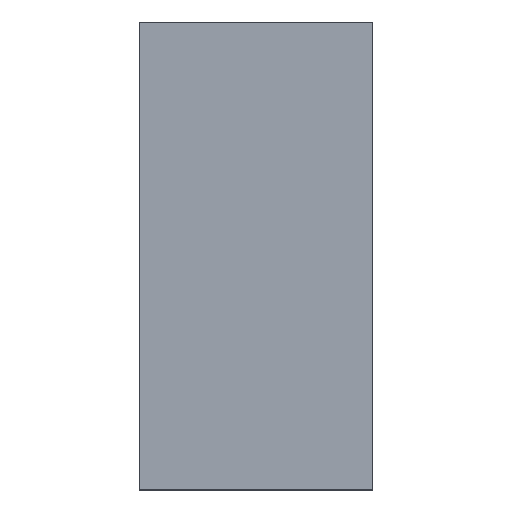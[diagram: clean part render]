
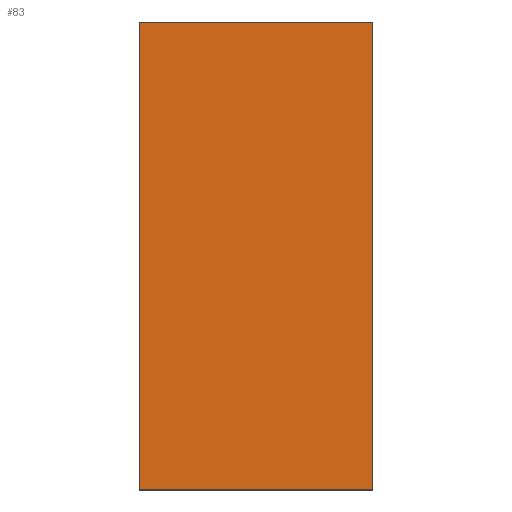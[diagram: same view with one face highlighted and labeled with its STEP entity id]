
A CAD part, top view. The second image highlights one B-rep face of the part: STEP entity #83.
In plain terms, the highlighted planar face has unit normal (0, 0, 1).
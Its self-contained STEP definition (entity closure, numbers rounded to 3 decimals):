
#83=ADVANCED_FACE('',(#106),#99,.F.);
#99=PLANE('',#309);
#106=FACE_OUTER_BOUND('',#118,.T.);
#118=EDGE_LOOP('',(#159,#160,#161,#162));
#159=ORIENTED_EDGE('',*,*,#244,.T.);
#160=ORIENTED_EDGE('',*,*,#245,.F.);
#161=ORIENTED_EDGE('',*,*,#246,.F.);
#162=ORIENTED_EDGE('',*,*,#242,.T.);
#215=VERTEX_POINT('',#441);
#216=VERTEX_POINT('',#443);
#217=VERTEX_POINT('',#447);
#218=VERTEX_POINT('',#449);
#242=EDGE_CURVE('',#216,#215,#271,.T.);
#244=EDGE_CURVE('',#215,#217,#273,.T.);
#245=EDGE_CURVE('',#218,#217,#274,.T.);
#246=EDGE_CURVE('',#216,#218,#275,.T.);
#271=LINE('',#442,#293);
#273=LINE('',#446,#295);
#274=LINE('',#448,#296);
#275=LINE('',#450,#297);
#293=VECTOR('',#358,1.);
#295=VECTOR('',#362,1.);
#296=VECTOR('',#363,1.);
#297=VECTOR('',#364,1.);
#309=AXIS2_PLACEMENT_3D('',#451,#365,#366);
#358=DIRECTION('',(0.,1.,0.));
#362=DIRECTION('',(-1.,0.,0.));
#363=DIRECTION('',(0.,1.,0.));
#364=DIRECTION('',(-1.,0.,0.));
#365=DIRECTION('',(0.,0.,-1.));
#366=DIRECTION('',(-1.,0.,0.));
#441=CARTESIAN_POINT('',(2.5,5.,6.));
#442=CARTESIAN_POINT('',(2.5,-5.,6.));
#443=CARTESIAN_POINT('',(2.5,-5.,6.));
#446=CARTESIAN_POINT('',(2.5,5.,6.));
#447=CARTESIAN_POINT('',(-2.5,5.,6.));
#448=CARTESIAN_POINT('',(-2.5,-5.,6.));
#449=CARTESIAN_POINT('',(-2.5,-5.,6.));
#450=CARTESIAN_POINT('',(2.5,-5.,6.));
#451=CARTESIAN_POINT('',(2.5,-5.,6.));
